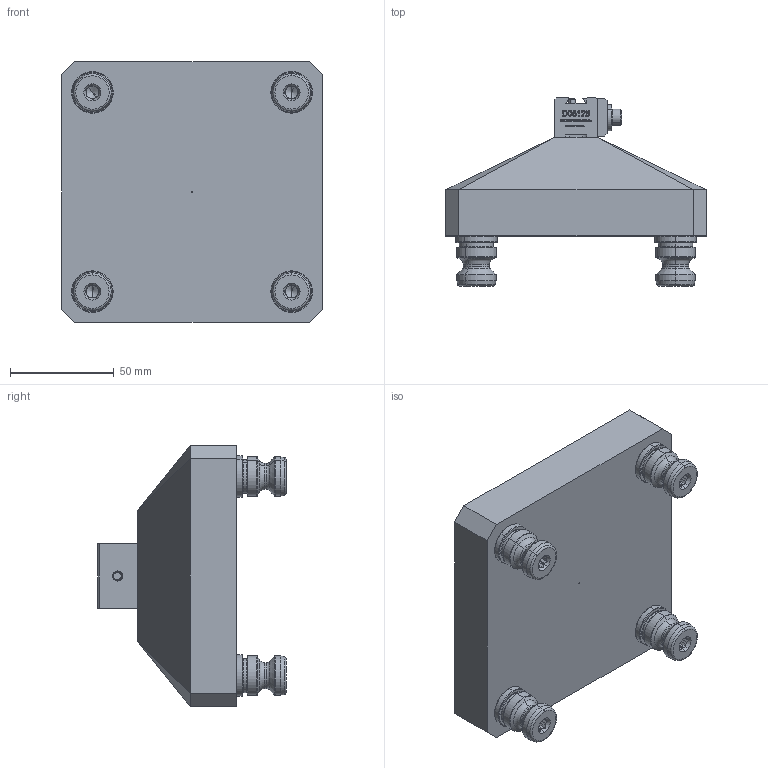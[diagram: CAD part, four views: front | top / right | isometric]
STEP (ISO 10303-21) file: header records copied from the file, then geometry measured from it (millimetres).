
FILE_DESCRIPTION (( 'STEP AP214' ), '1' );
FILE_NAME ('R96-D05125.STEP', '2018-01-22T21:12:22', ( '' ), ( '' ), 'SwSTEP 2.0', 'SolidWorks 2017', '' );
FILE_SCHEMA (( 'AUTOMOTIVE_DESIGN' ));
Length unit declared in the file: inch
Products named in the file (13): D05125; HW.0203X0500.FW_DEFAULT; CLW10_CLW10; D05125-1_D051251WM-1; PS20F; 91390A162_ALLOY STEEL CUP POINT SET SCREW_91390A162; R96-D051251; HW.0125X0375.DP_DEFAULT; R96-D05125; HW.73044_HW.73044; HW.0236X0256.CS; HW.0125X0250.DP_DEFAULT
Assembly tree (16 placements, depth 3):
  R96-D05125
    R96-D051251
    PS20F  x4
      PS20F
      91390A162_ALLOY STEEL CUP POINT SET SCREW_91390A162
    D05125
      D05125-1_D051251WM-1
      CLW10_CLW10
      HW.0203X0500.FW_DEFAULT
      HW.0125X0375.DP_DEFAULT  x2
      HW.0125X0250.DP_DEFAULT
      HW.0236X0256.CS
      HW.73044_HW.73044
Bounding box: 125.73 x 90.68 x 125.73 mm (x, y, z)
Volume: 567613.3 mm3; surface area: 72852.1 mm2
Topology: 17 solids, 17 shells, 2152 faces, 5479 edges, 3511 vertices
Faces by surface type: plane 997, bspline 449, cylinder 409, cone 193, torus 104
Entity records: 83824 total; most frequent: CARTESIAN_POINT 36656, ORIENTED_EDGE 8780, DIRECTION 6042, EDGE_CURVE 4390, VERTEX_POINT 2882, VECTOR 2798, LINE 2798, EDGE_LOOP 1886
